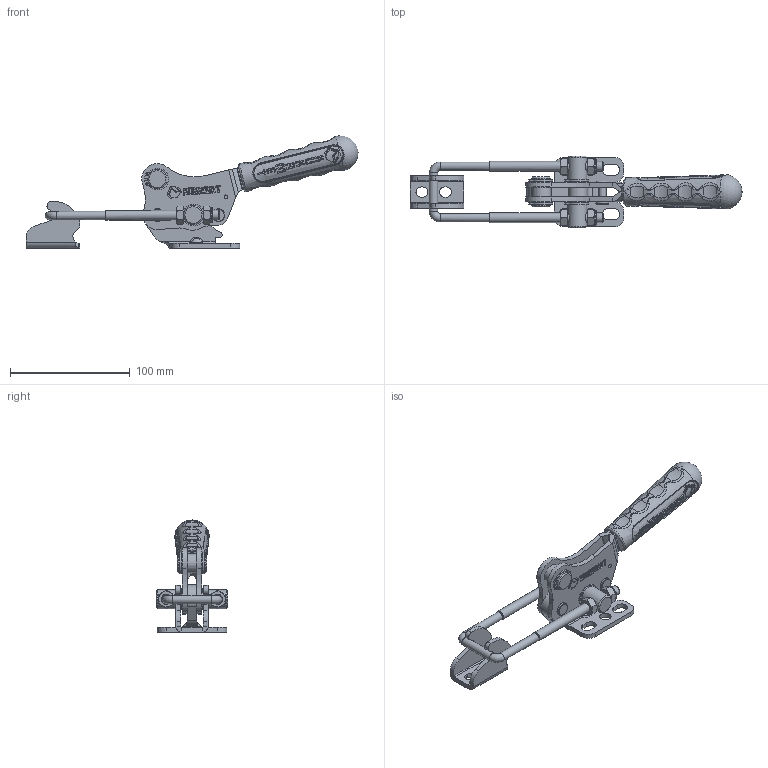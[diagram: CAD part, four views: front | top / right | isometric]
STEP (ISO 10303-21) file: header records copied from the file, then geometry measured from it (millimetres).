
FILE_DESCRIPTION(/* description */ (''),/* implementation_level */ '2;1');
FILE_NAME(/* name */ '311-4.stp',/* time_stamp */ '2022-06-03T17:31:44+03:00',/* author */ (''),/* organization */ (''),/* preprocessor_version */ 'ST-DEVELOPER v18.1',/* originating_system */ 'SIEMENS PLM Software NX 1996',/* authorisation */ '');
FILE_SCHEMA (('AUTOMOTIVE_DESIGN { 1 0 10303 214 3 1 1 1 }'));
Length unit declared in the file: millimetre
Products named in the file (7): 310-350-4-04; 150-17-31; 150-34; 150-29; 310-350-4-03A-B; 310-350-4-01A-B; 311-4 MONTAJ
Assembly tree (7 placements, depth 2):
  311-4 MONTAJ
    310-350-4-01A-B
    310-350-4-03A-B
    150-29
    150-34
    150-17-31  x2
    310-350-4-04
Bounding box: 276.94 x 60 x 93.61 mm (x, y, z)
Volume: 139797.1 mm3; surface area: 60439 mm2
Topology: 9 solids, 16 shells, 1954 faces, 4786 edges, 2865 vertices
Faces by surface type: cylinder 669, bspline 566, plane 514, torus 140, cone 53, sphere 12
Full cylindrical faces by diameter (mm): 1.5 x8, 3 x1, 4 x2, 4.8 x2, 4.9 x2, 5 x2, 6 x3, 6.7 x4, 7 x3, 8 x2, 8.5 x2, 9.5 x2, 11 x2, 12.849 x2, 16 x5, 16.1 x5
Entity records: 86070 total; most frequent: CARTESIAN_POINT 31306, ORIENTED_EDGE 9166, DIRECTION 7782, EDGE_CURVE 4583, AXIS2_PLACEMENT_3D 3137, VERTEX_POINT 2802, EDGE_LOOP 2107, PRESENTATION_STYLE_ASSIGNMENT 1933
